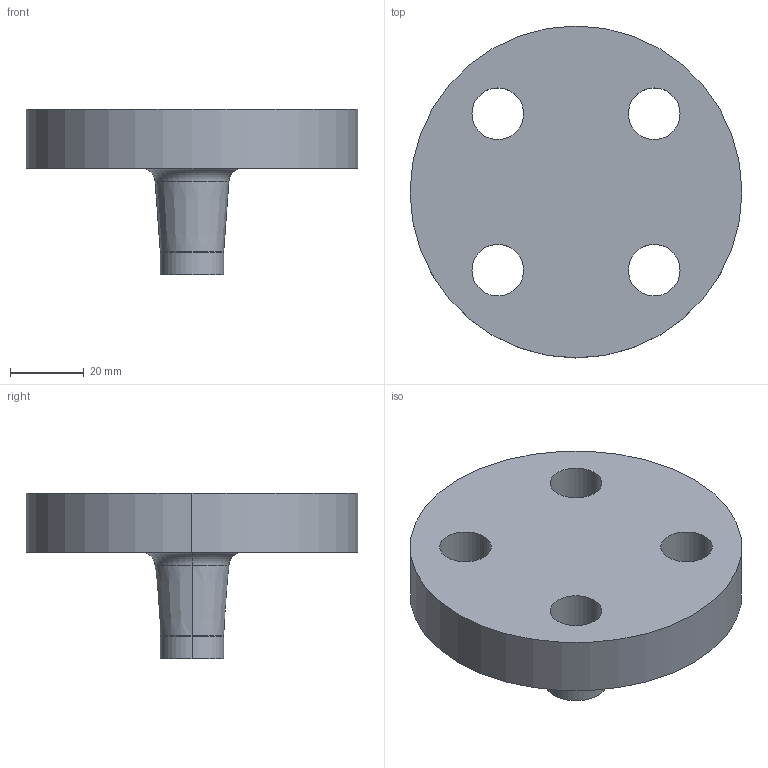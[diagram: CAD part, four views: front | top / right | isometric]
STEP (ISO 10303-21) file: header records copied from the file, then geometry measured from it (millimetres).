
FILE_DESCRIPTION (( 'STEP AP214' ), '1' );
FILE_NAME ('PN40 DN10 Type 21(ii) - Type A Face.STEP', '2018-12-29T05:06:24', ( '' ), ( '' ), 'SwSTEP 2.0', 'SolidWorks 2019', '' );
FILE_SCHEMA (( 'AUTOMOTIVE_DESIGN' ));
Length unit declared in the file: millimetre
Products named in the file (1): PN40 DN10 Type 21(ii) - Type A Face
Bounding box: 90 x 90 x 45 mm (x, y, z)
Volume: 99981.7 mm3; surface area: 20335.6 mm2
Topology: 1 solids, 1 shells, 21 faces, 48 edges, 30 vertices
Faces by surface type: cylinder 12, torus 4, plane 3, cone 2
Entity records: 658 total; most frequent: DIRECTION 126, CARTESIAN_POINT 100, ORIENTED_EDGE 96, AXIS2_PLACEMENT_3D 56, EDGE_CURVE 48, CIRCLE 34, EDGE_LOOP 30, VERTEX_POINT 30
